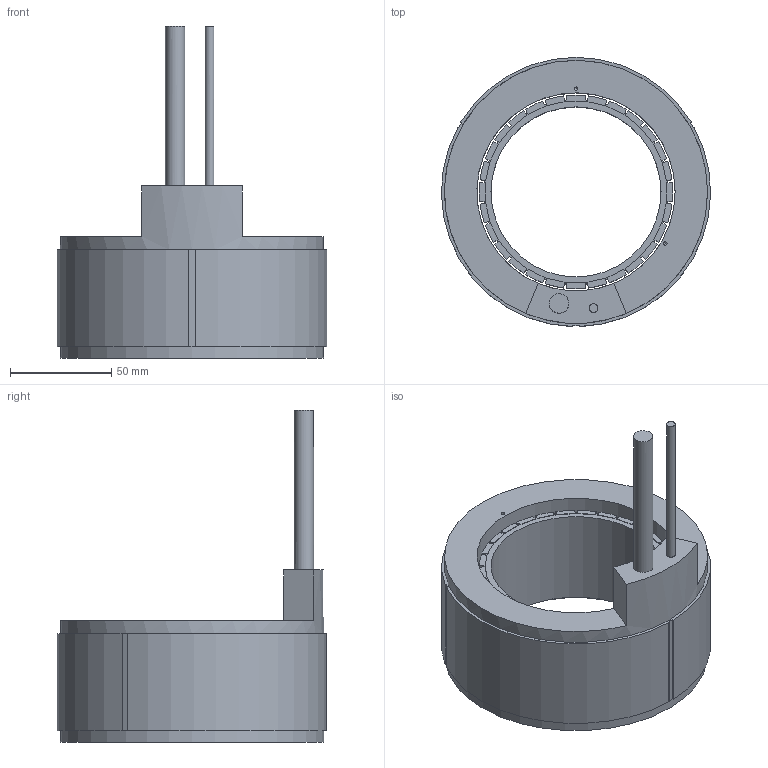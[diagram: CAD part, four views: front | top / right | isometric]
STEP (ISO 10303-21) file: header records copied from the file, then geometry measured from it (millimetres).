
FILE_DESCRIPTION(/* description */ ('Unknown'),/* implementation_level */ '2;1');
FILE_NAME(/* name */ 'Torque_QTR_133_60_N_Kit_CAD_180910',/* time_stamp */ '2018-09-10T16:45:04+02:00',/* author */ ('Unknown'),/* organization */ ('Unknown'),/* preprocessor_version */ 'ST-DEVELOPER v16.7',/* originating_system */ 'DEX',/* authorisation */ $);
FILE_SCHEMA (('AUTOMOTIVE_DESIGN {1 0 10303 214 3 1 1}'));
Length unit declared in the file: millimetre
Products named in the file (1): Torque_QTR_133_60_N_Kit_CAD_180910
Bounding box: 132.99 x 132.98 x 164 mm (x, y, z)
Volume: 474725.2 mm3; surface area: 98491.5 mm2
Topology: 2 solids, 2 shells, 369 faces, 976 edges, 614 vertices
Faces by surface type: plane 300, cylinder 67, cone 2
Full cylindrical faces by diameter (mm): 1.65 x2, 4.3 x1, 9.6 x1, 84 x1, 97.9 x1, 130 x2
Entity records: 11095 total; most frequent: CARTESIAN_POINT 1936, ORIENTED_EDGE 1916, DIRECTION 1834, EDGE_CURVE 958, LINE 822, VECTOR 822, VERTEX_POINT 608, AXIS2_PLACEMENT_3D 506
